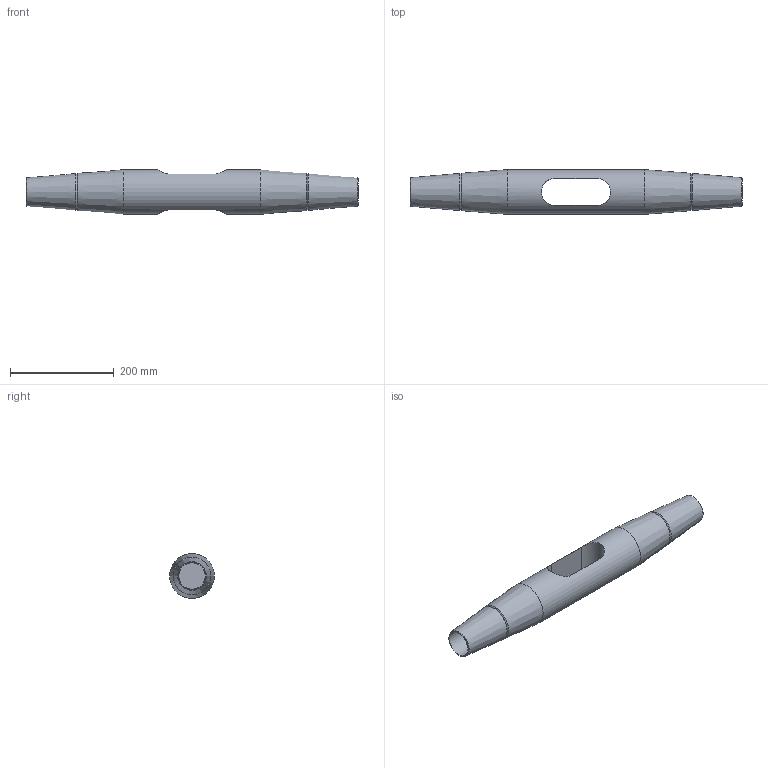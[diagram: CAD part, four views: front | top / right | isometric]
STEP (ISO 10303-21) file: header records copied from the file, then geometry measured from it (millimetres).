
FILE_DESCRIPTION(/* description */ (''),/* implementation_level */ '2;1');
FILE_NAME(/* name */ 'G:\Engineering\700 CAD\Internet-PX-1-step-igs-dxf\520-KMF-Arbeitsdateien\520-048-KMF.stp',/* time_stamp */ '2020-07-02T13:24:02+02:00',/* author */ ('schwarz'),/* organization */ (''),/* preprocessor_version */ 'ST-DEVELOPER v16.1',/* originating_system */ 'Autodesk Inventor 2016',/* authorisation */ '');
FILE_SCHEMA (('AUTOMOTIVE_DESIGN { 1 0 10303 214 3 1 1 }'));
Length unit declared in the file: centimetre
Products named in the file (1): Kreuzmuffen-Set 520 048 Kunde
Bounding box: 639 x 86 x 86 mm (x, y, z)
Volume: 2226269.5 mm3; surface area: 194046.3 mm2
Topology: 1 solids, 1 shells, 21 faces, 41 edges, 24 vertices
Faces by surface type: cone 10, plane 6, cylinder 5
Full cylindrical faces by diameter (mm): 50.5 x2, 86 x1
Entity records: 653 total; most frequent: CARTESIAN_POINT 206, DIRECTION 84, ORIENTED_EDGE 56, EDGE_LOOP 38, AXIS2_PLACEMENT_3D 38, EDGE_CURVE 28, VERTEX_POINT 24, STYLED_ITEM 22
